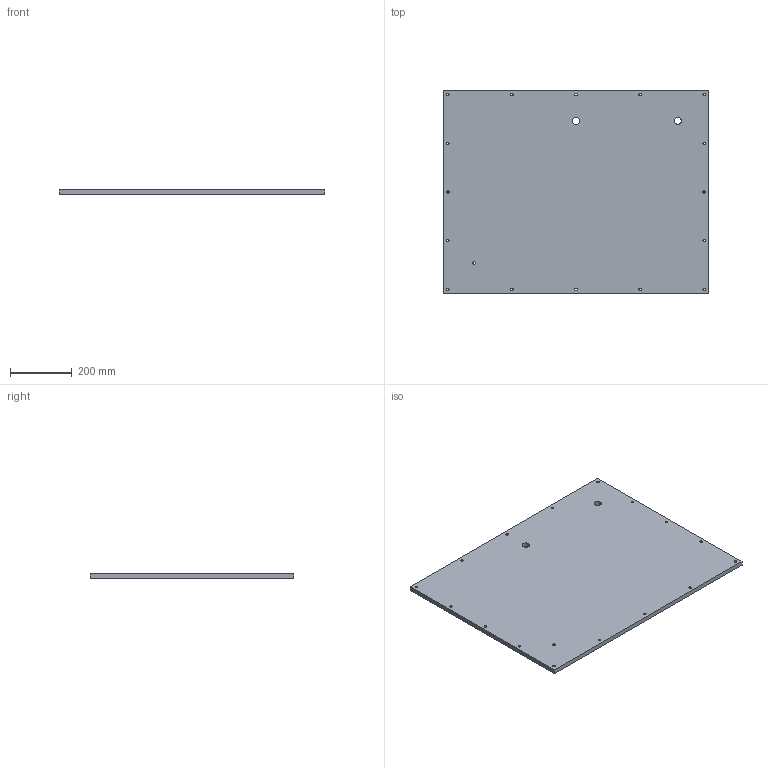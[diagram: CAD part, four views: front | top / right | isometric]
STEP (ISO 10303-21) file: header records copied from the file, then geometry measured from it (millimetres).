
FILE_DESCRIPTION (( 'STEP AP214' ), '1' );
FILE_NAME ('Saci_nadrz_viko.STEP', '2019-08-05T08:01:19', ( '' ), ( '' ), 'SwSTEP 2.0', 'SolidWorks 2016', '' );
FILE_SCHEMA (( 'AUTOMOTIVE_DESIGN' ));
Length unit declared in the file: millimetre
Products named in the file (1): Saci_nadrz_viko
Bounding box: 860 x 660 x 15 mm (x, y, z)
Volume: 8488048 mm3; surface area: 1186005.9 mm2
Topology: 1 solids, 1 shells, 50 faces, 138 edges, 90 vertices
Faces by surface type: cylinder 40, plane 6, cone 4
Entity records: 2230 total; most frequent: DIRECTION 322, CARTESIAN_POINT 279, ORIENTED_EDGE 276, EDGE_CURVE 138, AXIS2_PLACEMENT_3D 133, VERTEX_POINT 90, EDGE_LOOP 88, CIRCLE 82
